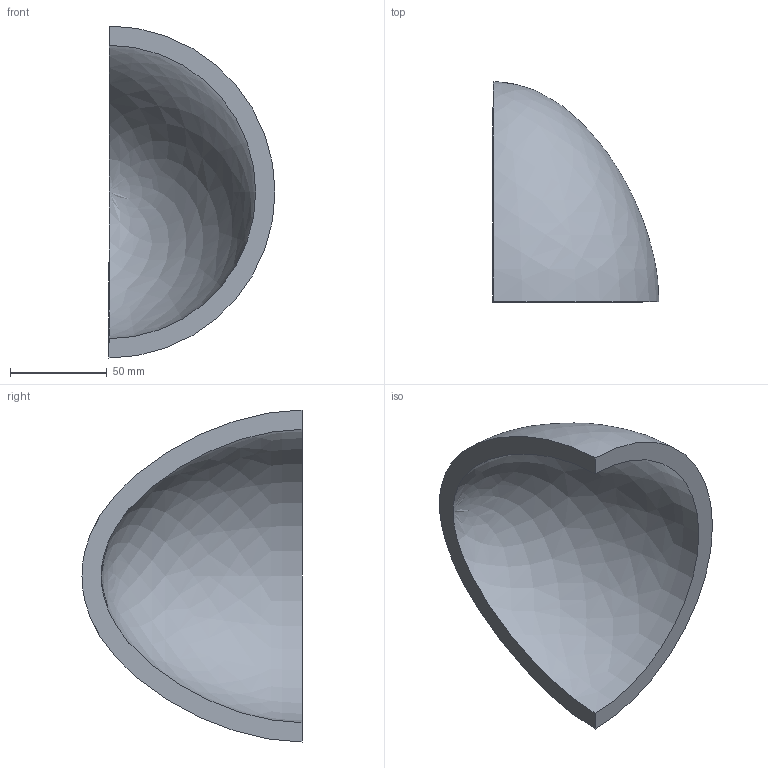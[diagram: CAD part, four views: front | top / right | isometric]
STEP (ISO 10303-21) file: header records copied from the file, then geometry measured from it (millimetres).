
FILE_DESCRIPTION(('CATIA V5 STEP Exchange'),'2;1');
FILE_NAME('C:\_Andres\UNIVERSIDAD\IQS\ASIGNATURAS\DAO\EXF\EXF-16172c\2inicio\Homs_Menis_Ej10_v14.stp','2017-03-05T22:31:11+00:00',('none'),('none'),'CATIA Version 5-6 Release 2014 SP1 HF18','CATIA V5 STEP AP203','none');
FILE_SCHEMA(('CONFIG_CONTROL_DESIGN'));
Length unit declared in the file: millimetre
Products named in the file (1): Homs_Menis_Ej10_v14
Bounding box: 86 x 114 x 172 mm (x, y, z)
Volume: 244533.9 mm3; surface area: 54507.1 mm2
Topology: 1 solids, 1 shells, 4 faces, 10 edges, 6 vertices
Faces by surface type: revolution 2, plane 2
Entity records: 239 total; most frequent: CARTESIAN_POINT 117, ORIENTED_EDGE 16, DIRECTION 10, EDGE_CURVE 8, B_SPLINE_CURVE_WITH_KNOTS 6, VERTEX_POINT 6, AXIS2_PLACEMENT_3D 5, ADVANCED_FACE 4
